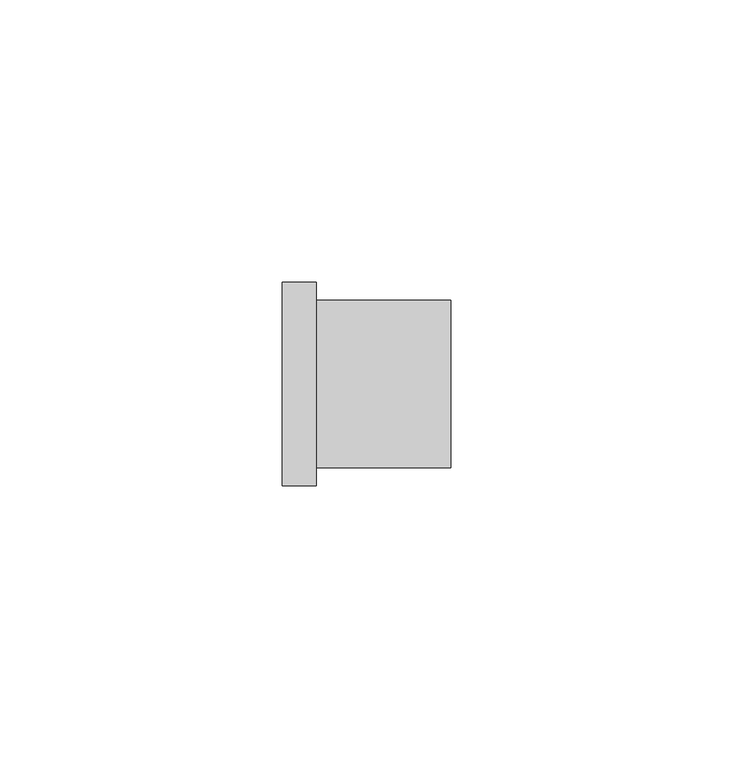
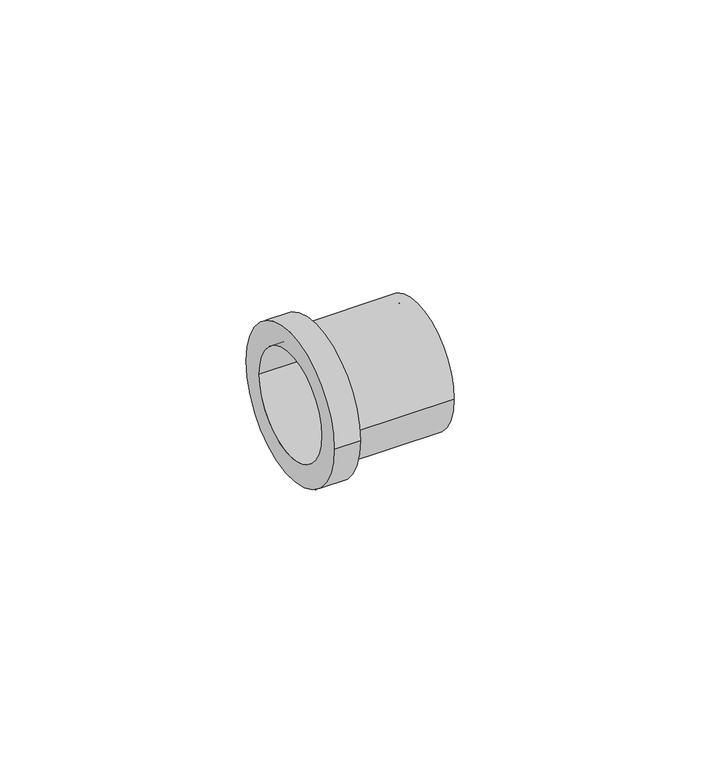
"""IFC4 building model written with IfcOpenShell, lengths in millimetres: pipe fitting geometry, FASTLOC_Sleeve outside : FSL S O DN1."""

import ifcopenshell
import ifcopenshell.guid

model = None  # the IFC model being written
_history = None  # IfcOwnerHistory: only IFC2X3 demands one
_inside = {}  # id of a spatial element -> (the spatial element, [elements in it])
_under = {}  # id of a project, library or spatial element -> (it, [spatial elements below it])
_declared = {}  # id of a project -> (the project, [libraries it declares])
_typed = {}  # id of a type object -> (the type object, [elements of that type])
_made_of = {}  # id of a material, layer set ... -> (it, [elements and type objects made of it])


def new_model(schema):
    """Start an empty IFC model of exactly this schema.

    Asked for "IFC4X3", IfcOpenShell would pick the latest addendum, in which some entities
    have other attributes; the version numbers below select the first issue.
    IFC2X3 requires an IfcOwnerHistory on every rooted entity: one is made here for all.
    """
    global model, _history
    if schema == "IFC4X3":
        model = ifcopenshell.file(schema_version=(4, 3, 0, 0))
    else:
        model = ifcopenshell.file(schema=schema)
    _inside.clear()
    _under.clear()
    _declared.clear()
    _typed.clear()
    _made_of.clear()
    _history = None
    if model.schema == "IFC2X3":
        org = make("IfcOrganization", Name="unknown")
        user = make(
            "IfcPersonAndOrganization",
            ThePerson=make("IfcPerson", FamilyName="unknown"),
            TheOrganization=org,
        )
        app = make(
            "IfcApplication",
            ApplicationDeveloper=org,
            Version="unknown",
            ApplicationFullName="unknown",
            ApplicationIdentifier="unknown",
        )
        _history = make(
            "IfcOwnerHistory",
            OwningUser=user,
            OwningApplication=app,
            ChangeAction="ADDED",
            CreationDate=0,
        )
    return model


def make(cls, **values):
    """One entity of the class cls with the attributes given. An attribute that is None is left unset."""
    return model.create_entity(
        cls, **{name: value for name, value in values.items() if value is not None}
    )


def rooted(cls, **values):
    """An entity with a GlobalId (a new one), such as an element, a storey or a relation."""
    return make(cls, GlobalId=ifcopenshell.guid.new(), OwnerHistory=_history, **values)


def si_unit(unit_type, name, prefix=None):
    """IfcSIUnit, for example si_unit("LENGTHUNIT", "METRE", prefix="MILLI")."""
    return make("IfcSIUnit", UnitType=unit_type, Prefix=prefix, Name=name)


def assignment(units):
    """IfcUnitAssignment: the units of a project."""
    return None if units is None else make("IfcUnitAssignment", Units=units)


def point(xyz):
    """IfcCartesianPoint."""
    return None if xyz is None else make("IfcCartesianPoint", Coordinates=xyz)


def direction(xyz):
    """IfcDirection."""
    return None if xyz is None else make("IfcDirection", DirectionRatios=xyz)


def frame(location, z_axis=None, x_axis=None):
    """IfcAxis2Placement3D, a coordinate frame: its origin and axes. An axis left out is left unset."""
    return make(
        "IfcAxis2Placement3D",
        Location=point(location),
        Axis=direction(z_axis),
        RefDirection=direction(x_axis),
    )


def origin():
    """The frame at (0, 0, 0) with its axes left unset."""
    return frame((0.0, 0.0, 0.0))


def place(relative_to, where):
    """IfcLocalPlacement: puts the frame where relative to a parent placement (None: the world)."""
    return make(
        "IfcLocalPlacement", PlacementRelTo=relative_to, RelativePlacement=where
    )


def context(
    kind, dimensions, precision=None, world=None, true_north=None, identifier=None
):
    """IfcGeometricRepresentationContext, for example the 3D "Model" context."""
    return make(
        "IfcGeometricRepresentationContext",
        ContextIdentifier=identifier,
        ContextType=kind,
        CoordinateSpaceDimension=dimensions,
        Precision=precision,
        WorldCoordinateSystem=world,
        TrueNorth=true_north,
    )


def project(units=None, contexts=None):
    """IfcProject with its units and contexts."""
    return rooted(
        "IfcProject",
        Name="project",
        RepresentationContexts=contexts,
        UnitsInContext=assignment(units),
    )


def spatial(cls, under=None, at=None, **own):
    """A site, building, storey or space (cls), placed at a placement, below another one or the project."""
    s = rooted(cls, ObjectPlacement=at, **own)
    if under is not None:
        _under.setdefault(under.id(), (under, []))[1].append(s)
    return s


def polyline(points):
    """IfcPolyline through the points."""
    return make("IfcPolyline", Points=[point(p) for p in points])


def circle_curve(where, radius):
    """IfcCircle in the frame where."""
    return make("IfcCircle", Position=where, Radius=radius)


def shape(context_of_items, identifier, shape_type, items):
    """IfcShapeRepresentation: the items that make up one representation, for example the "Body"."""
    return make(
        "IfcShapeRepresentation",
        ContextOfItems=context_of_items,
        RepresentationIdentifier=identifier,
        RepresentationType=shape_type,
        Items=items,
    )


def source(mapping_origin, context_of_items, identifier, shape_type, items):
    """IfcRepresentationMap: a shape defined once, which mapped items show again and again."""
    return make(
        "IfcRepresentationMap",
        MappingOrigin=mapping_origin,
        MappedRepresentation=shape(context_of_items, identifier, shape_type, items),
    )


def transform(
    local_origin,
    x_axis=None,
    y_axis=None,
    z_axis=None,
    scale=None,
    scale2=None,
    scale3=None,
    uniform=True,
):
    """IfcCartesianTransformationOperator3D, or its non-uniform kind. x_axis, y_axis, z_axis: its Axis1, 2, 3."""
    if uniform:
        return make(
            "IfcCartesianTransformationOperator3D",
            Axis1=direction(x_axis),
            Axis2=direction(y_axis),
            LocalOrigin=point(local_origin),
            Scale=scale,
            Axis3=direction(z_axis),
        )
    return make(
        "IfcCartesianTransformationOperator3DnonUniform",
        Axis1=direction(x_axis),
        Axis2=direction(y_axis),
        LocalOrigin=point(local_origin),
        Scale=scale,
        Axis3=direction(z_axis),
        Scale2=scale2,
        Scale3=scale3,
    )


def mapped(mapping_source, mapping_target):
    """IfcMappedItem: shows the shape of a source again, moved by a transform."""
    return make(
        "IfcMappedItem", MappingSource=mapping_source, MappingTarget=mapping_target
    )


def made_of(thing, what):
    """Note that an element or type object is made of a material, layer set ...; save() writes the relation."""
    if what is not None:
        _made_of.setdefault(what.id(), (what, []))[1].append(thing)
    return thing


def element(
    cls,
    number,
    at=None,
    inside=None,
    cuts=None,
    type_object=None,
    material=None,
    context=None,
    identifier="Body",
    shape_type=None,
    held_by="IfcProductDefinitionShape",
    body=None,
    shapes=None,
    **own,
):
    """One element of the class cls, such as IfcWall. Its Tag is "e" and its number.

    at: its placement. inside: the storey or other place that contains it. cuts: it is an
    opening in that element (IfcRelVoidsElement). A single representation is given by context,
    identifier, shape_type and body (its items); several are given by shapes. held_by: the class
    of the entity that holds the representations. save() writes the other relations.
    """
    e = rooted(cls, Tag="e%d" % number, ObjectPlacement=at, **own)
    if body is not None:
        shapes = [shape(context, identifier, shape_type, body)]
    if shapes is not None:
        e.Representation = make(held_by, Representations=shapes)
    if inside is not None:
        _inside.setdefault(inside.id(), (inside, []))[1].append(e)
    if cuts is not None:
        rooted(
            "IfcRelVoidsElement", RelatingBuildingElement=cuts, RelatedOpeningElement=e
        )
    if type_object is not None:
        _typed.setdefault(type_object.id(), (type_object, []))[1].append(e)
    return made_of(e, material)


def aggregate(whole, parts):
    """IfcRelAggregates: a whole, such as a stair, and the parts it consists of."""
    return rooted("IfcRelAggregates", RelatingObject=whole, RelatedObjects=parts)


def save(model, path):
    """Write the relations noted so far, then the file.

    IfcRelAggregates (storeys below a building ...), IfcRelContainedInSpatialStructure (elements
    in a storey), IfcRelDefinesByType, IfcRelAssociatesMaterial and IfcRelDeclares: one each for
    every whole, place, type object, material and project.
    """
    for whole, parts in _under.values():
        aggregate(whole, parts)
    for where, things in _inside.values():
        rooted(
            "IfcRelContainedInSpatialStructure",
            RelatedElements=things,
            RelatingStructure=where,
        )
    for kind, things in _typed.values():
        rooted("IfcRelDefinesByType", RelatedObjects=things, RelatingType=kind)
    for what, things in _made_of.values():
        rooted("IfcRelAssociatesMaterial", RelatedObjects=things, RelatingMaterial=what)
    for by, libraries in _declared.values():
        rooted("IfcRelDeclares", RelatingContext=by, RelatedDefinitions=libraries)
    model.write(path)


def plane_surface(at):
    """IfcPlane: the flat surface through the origin of the frame at, square to its z axis."""
    return make("IfcPlane", Position=at)


def cylinder_surface(at, radius):
    """IfcCylindricalSurface: all points at the distance radius from the z axis of the frame at."""
    return make("IfcCylindricalSurface", Position=at, Radius=radius)


def revolved_surface(curve, axis_point, axis_direction):
    """IfcSurfaceOfRevolution: the curve turned about the line through axis_point along axis_direction."""
    return make(
        "IfcSurfaceOfRevolution",
        SweptCurve=make("IfcArbitraryOpenProfileDef", ProfileType="CURVE", Curve=curve),
        AxisPosition=make("IfcAxis1Placement", Location=point(axis_point), Axis=direction(axis_direction)),
    )


def advanced_brep(points, edges, surfaces, faces):
    """IfcAdvancedBrep: a solid bounded by faces that lie on surfaces and meet in shared edges.

    An edge is (start, end): straight between two places in points (the first is 0);
    or (start, end, curve); or (start, end, curve, False) where it runs against its curve.
    A face is (place in surfaces, loops), or (place, loops, False) where it looks against
    its surface's normal. A loop lists edges by number (the first is 1), with a minus sign
    where the edge is run from its end to its start. The first loop is the outer one.
    """
    corners = [point(p) for p in points]
    vertices = [make("IfcVertexPoint", VertexGeometry=c) for c in corners]
    made = []
    for start, end, *more in edges:
        made.append(
            make(
                "IfcEdgeCurve",
                EdgeStart=vertices[start],
                EdgeEnd=vertices[end],
                EdgeGeometry=more[0] if more else make("IfcPolyline", Points=[corners[start], corners[end]]),
                SameSense=more[1] if len(more) > 1 else True,
            )
        )
    hull = []
    for where, loops, *sense in faces:
        bounds = []
        for j, loop in enumerate(loops):
            ring = [make("IfcOrientedEdge", EdgeElement=made[abs(k) - 1], Orientation=k > 0) for k in loop]
            bounds.append(
                make(
                    "IfcFaceOuterBound" if j == 0 else "IfcFaceBound",
                    Bound=make("IfcEdgeLoop", EdgeList=ring),
                    Orientation=True,
                )
            )
        hull.append(make("IfcAdvancedFace", Bounds=bounds, FaceSurface=surfaces[where], SameSense=sense[0] if sense else True))
    return make("IfcAdvancedBrep", Outer=make("IfcClosedShell", CfsFaces=hull))


def pipe_fitting_049613d0(model_context):
    return source(origin(), model_context, "Body", "AdvancedBrep", [
        advanced_brep(
        [(6.0, 18.0, 0.0), (6.0, -18.0, 0.0), (0.0, -18.0, 0.0), (0.0, 18.0, 0.0), (29.8, 14.85, 0.0), (29.8, -14.85, 0.0), (6.0, -14.85, 0.0), (6.0, 14.85, 0.0), (0.0, 12.65, 0.0), (0.0, -12.65, 0.0), (29.8, -12.65, 0.0), (29.8, 12.65, 0.0)],
        [
            (0, 1, circle_curve(frame((6.0, 0.0, 0.0), z_axis=(-1.0, 0.0, 0.0), x_axis=(0.0, -1.0, 0.0)), 18.0)),
            (1, 2),
            (2, 3, circle_curve(frame((0.0, 0.0, 0.0), z_axis=(1.0, 0.0, 0.0), x_axis=(0.0, -1.0, 0.0)), 18.0)),
            (3, 0),
            (4, 5, circle_curve(frame((29.8, 0.0, 0.0), z_axis=(-1.0, 0.0, 0.0), x_axis=(0.0, -1.0, 0.0)), 14.85)),
            (5, 6),
            (6, 7, circle_curve(frame((6.0, 0.0, 0.0), z_axis=(1.0, 0.0, 0.0), x_axis=(0.0, -1.0, 0.0)), 14.85)),
            (7, 4),
            (8, 9, circle_curve(frame((0.0, 0.0, 0.0), z_axis=(-1.0, 0.0, 0.0), x_axis=(0.0, -1.0, 0.0)), 12.65)),
            (9, 10),
            (10, 11, circle_curve(frame((29.8, 0.0, 0.0), z_axis=(1.0, 0.0, 0.0), x_axis=(0.0, -1.0, 0.0)), 12.65)),
            (11, 8),
            (1, 0, circle_curve(frame((6.0, 0.0, 0.0), z_axis=(-1.0, 0.0, 0.0), x_axis=(0.0, 1.0, 0.0)), 18.0)),
            (3, 2, circle_curve(frame((0.0, 0.0, 0.0), z_axis=(1.0, 0.0, 0.0), x_axis=(0.0, 1.0, 0.0)), 18.0)),
            (6, 7, circle_curve(frame((6.0, 0.0, 0.0), z_axis=(-1.0, 0.0, 0.0), x_axis=(0.0, 1.0, 0.0)), 14.85)),
            (5, 4, circle_curve(frame((29.8, 0.0, 0.0), z_axis=(-1.0, 0.0, 0.0), x_axis=(0.0, 1.0, 0.0)), 14.85)),
            (10, 11, circle_curve(frame((29.8, 0.0, 0.0), z_axis=(-1.0, 0.0, 0.0), x_axis=(0.0, 1.0, 0.0)), 12.65)),
            (9, 8, circle_curve(frame((0.0, 0.0, 0.0), z_axis=(-1.0, 0.0, 0.0), x_axis=(0.0, 1.0, 0.0)), 12.65)),
        ],
        [
            cylinder_surface(frame((0.0, 0.0, 0.0), z_axis=(1.0, 0.0, 0.0), x_axis=(0.0, -1.0, 0.0)), 18.0),
            cylinder_surface(frame((0.0, 0.0, 0.0), z_axis=(1.0, 0.0, 0.0), x_axis=(0.0, -1.0, 0.0)), 14.85),
            revolved_surface(polyline([(29.8, -12.65, 0.0), (0.0, -12.65, 0.0)]), (0.0, 0.0, 0.0), (1.0, 0.0, 0.0)),
            cylinder_surface(frame((0.0, 0.0, 0.0), z_axis=(1.0, 0.0, 0.0), x_axis=(0.0, 1.0, 0.0)), 18.0),
            plane_surface(frame((6.0, 0.0, 0.0), z_axis=(1.0, 0.0, 0.0), x_axis=(0.0, 1.0, 0.0))),
            cylinder_surface(frame((0.0, 0.0, 0.0), z_axis=(1.0, 0.0, 0.0), x_axis=(0.0, 1.0, 0.0)), 14.85),
            plane_surface(frame((29.8, 0.0, 0.0), z_axis=(1.0, 0.0, 0.0), x_axis=(0.0, 1.0, 0.0))),
            revolved_surface(polyline([(29.8, 12.65, 0.0), (0.0, 12.65, 0.0)]), (0.0, 0.0, 0.0), (1.0, 0.0, 0.0)),
            plane_surface(frame((0.0, 0.0, 0.0), z_axis=(-1.0, 0.0, 0.0), x_axis=(0.0, 1.0, 0.0))),
        ],
        [
            (0, [[1, 2, 3, 4]]),
            (1, [[5, 6, 7, 8]]),
            (2, [[9, 10, 11, 12]]),
            (3, [[13, -4, 14, -2]]),
            (4, [[-13, -1], [15, -7]]),
            (5, [[16, -8, -15, -6]]),
            (6, [[-16, -5], [17, -11]]),
            (7, [[18, -12, -17, -10]]),
            (8, [[-14, -3], [-18, -9]]),
        ],
    ),
    ])


if __name__ == "__main__":
    model = new_model("IFC4")
    model_context = context("Model", 3, world=origin())
    ifc_project = project(units=[si_unit("LENGTHUNIT", "METRE", prefix="MILLI")], contexts=[model_context])
    site = spatial("IfcSite", under=ifc_project)
    building = spatial("IfcBuilding", under=site)
    placement = place(None, origin())
    pipe_fitting_shape = pipe_fitting_049613d0(model_context)
    element("IfcPipeFitting", 1, ObjectType="FASTLOC_Sleeve outside : FSL S O DN1", at=placement, inside=building, context=model_context, shape_type="MappedRepresentation", body=[
        mapped(pipe_fitting_shape, transform((0.0, 0.0, 0.0), x_axis=(1.0, 0.0, 0.0), y_axis=(0.0, 1.0, 0.0), z_axis=(0.0, 0.0, 1.0))),
    ])
    save(model, "model.ifc")
